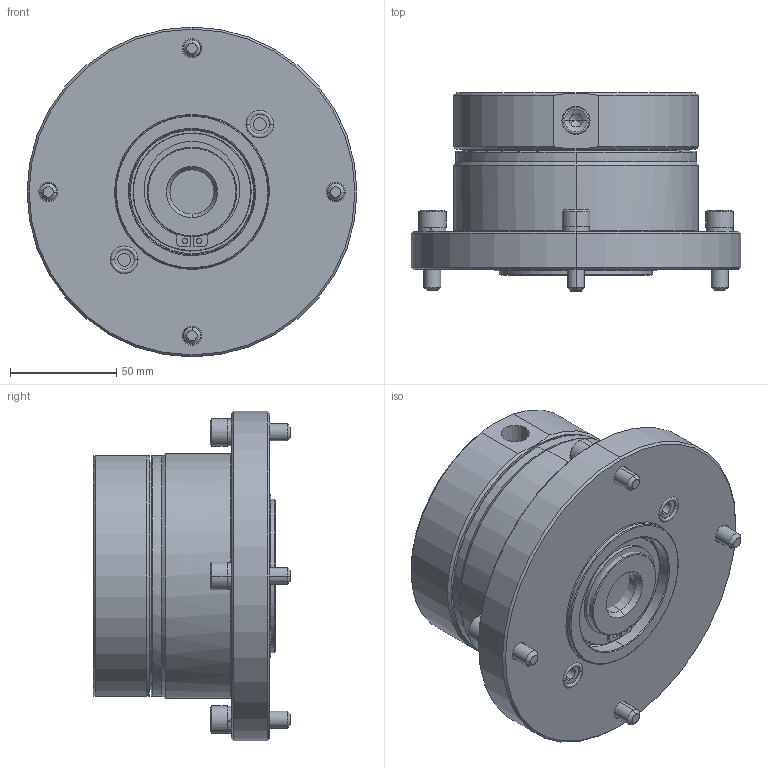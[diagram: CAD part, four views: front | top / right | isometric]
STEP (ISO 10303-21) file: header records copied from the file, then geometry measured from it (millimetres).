
FILE_DESCRIPTION((' '),'2;1');
FILE_NAME( 'TMB02-S-G-S.x_t.stp', '2024-09-03T08:15:23', (' '), ('--- Datakit www.datakit.com---'), ' Datakit CrossCadWare V2024.1 Dec 21 2023', 'Mastercam 2025', ' ');
FILE_SCHEMA(('AUTOMOTIVE_DESIGN { 1 0 10303 214 1 1 1 1 }'));
Length unit declared in the file: millimetre
Products named in the file (1): TMB02-S-G-S
Bounding box: 155 x 93 x 155 mm (x, y, z)
Volume: 1090144.9 mm3; surface area: 120636 mm2
Topology: 14 solids, 14 shells, 324 faces, 683 edges, 395 vertices
Faces by surface type: plane 108, cylinder 104, cone 90, torus 22
Entity records: 9043 total; most frequent: DIRECTION 1674, CARTESIAN_POINT 1635, ORIENTED_EDGE 1334, AXIS2_PLACEMENT_3D 714, EDGE_CURVE 667, VERTEX_POINT 395, CIRCLE 373, EDGE_LOOP 368
